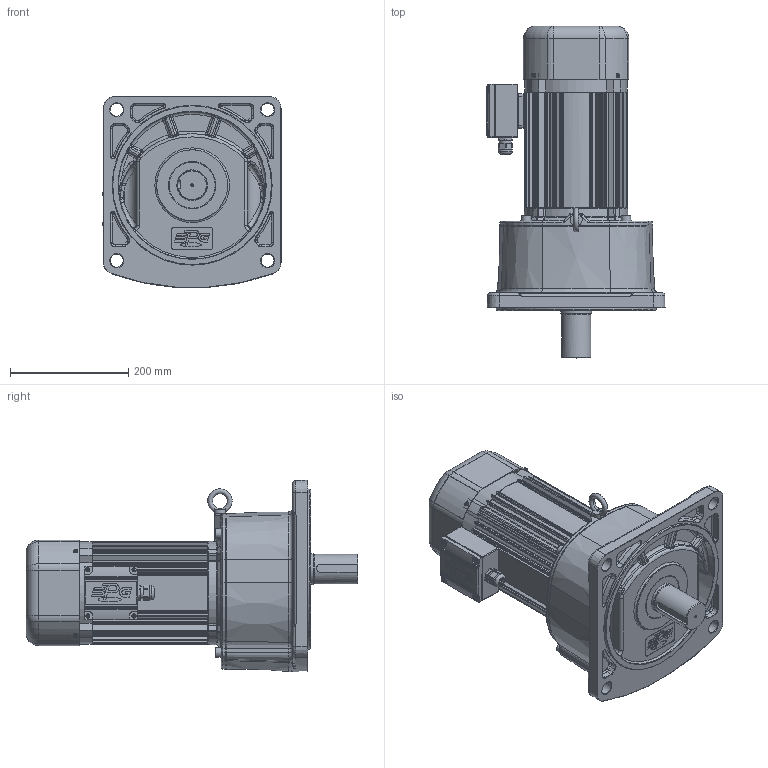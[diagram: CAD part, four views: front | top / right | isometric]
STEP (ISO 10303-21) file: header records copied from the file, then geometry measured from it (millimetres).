
FILE_DESCRIPTION(/* description */ (''),/* implementation_level */ '2;1');
FILE_NAME(/* name */ 'Z:\동력 3D 파일\PAF50_1.5kW_Brake_3D.stp',/* time_stamp */ '2021-11-08T16:11:33+09:00',/* author */ ('jaebok'),/* organization */ (''),/* preprocessor_version */ 'ST-DEVELOPER v18.1',/* originating_system */ 'Autodesk Inventor 2022',/* authorisation */ '');
FILE_SCHEMA (('AUTOMOTIVE_DESIGN { 1 0 10303 214 3 1 1 }'));
Products named in the file (1): 부품24
Bounding box: 300.46 x 560.3 x 322.9 mm (x, y, z)
Volume: 6811955.5 mm3; surface area: 1338556.6 mm2
Topology: 1 solids, 32 shells, 3771 faces, 9357 edges, 5557 vertices
Faces by surface type: plane 1084, bspline 989, cylinder 934, torus 356, cone 288, sphere 120
Full cylindrical faces by diameter (mm): 2.5 x2, 3.25 x1, 3.6 x4, 4 x22, 4.917 x4, 5 x13, 6 x5, 6.647 x1, 7 x12, 8 x4, 8.376 x4, 8.8 x1, 10 x5, 11 x4, 12.5 x1, 15 x1, 16 x4, 20 x2, 21 x1, 22 x5, 23.6 x1, 25 x2, 35.8 x1, 36 x2, 40 x1, 49.8 x2, 50 x2, 52 x4, 52.8 x1, 55 x1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
Entity records: 144685 total; most frequent: CARTESIAN_POINT 57308, ORIENTED_EDGE 18320, DIRECTION 16394, EDGE_CURVE 9160, AXIS2_PLACEMENT_3D 6702, VERTEX_POINT 5556, EDGE_LOOP 3990, CIRCLE 3800
